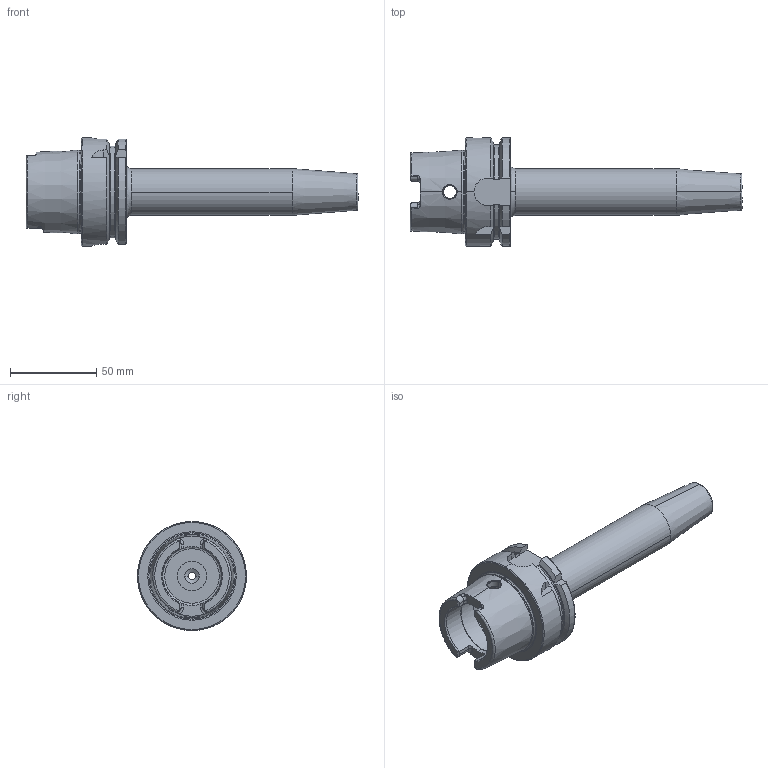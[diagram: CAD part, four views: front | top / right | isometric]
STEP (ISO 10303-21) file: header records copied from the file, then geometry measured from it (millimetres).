
FILE_DESCRIPTION (( 'STEP AP214' ), '1' );
FILE_NAME ('04-0483.STEP', '2021-08-03T16:46:05', ( '' ), ( '' ), 'SwSTEP 2.0', 'SolidWorks 2020', '' );
FILE_SCHEMA (( 'AUTOMOTIVE_DESIGN' ));
Length unit declared in the file: inch
Products named in the file (1): 04-0483
Bounding box: 192 x 63 x 63 mm (x, y, z)
Volume: 147933.6 mm3; surface area: 36085.7 mm2
Topology: 1 solids, 1 shells, 153 faces, 409 edges, 260 vertices
Faces by surface type: cylinder 49, bspline 41, plane 41, cone 22
Entity records: 8266 total; most frequent: CARTESIAN_POINT 4699, ORIENTED_EDGE 818, DIRECTION 656, EDGE_CURVE 409, AXIS2_PLACEMENT_3D 264, VERTEX_POINT 260, EDGE_LOOP 161, ADVANCED_FACE 153
